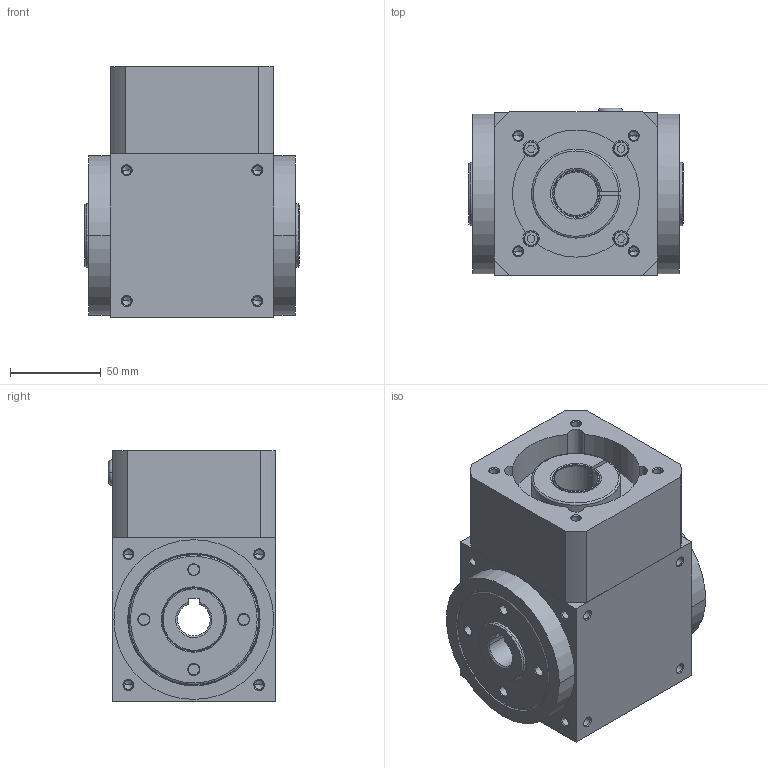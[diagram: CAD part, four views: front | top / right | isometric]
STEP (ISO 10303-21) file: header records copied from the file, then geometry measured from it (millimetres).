
FILE_DESCRIPTION (( 'STEP AP203' ), '1' );
FILE_NAME ('LAT90-H-P2-7090M6.STEP', '2024-11-15T08:56:39', ( '微软用户' ), ( '微软中国' ), 'SwSTEP 2.0', 'SolidWorks 2022', '' );
FILE_SCHEMA (( 'CONFIG_CONTROL_DESIGN' ));
Length unit declared in the file: millimetre
Products named in the file (1): LAT90-H-P2-7090M6
Bounding box: 118 x 92 x 138 mm (x, y, z)
Volume: 1133623.4 mm3; surface area: 163452.6 mm2
Topology: 7 solids, 7 shells, 395 faces, 979 edges, 569 vertices
Faces by surface type: cylinder 168, cone 131, plane 80, torus 16
Entity records: 11449 total; most frequent: CARTESIAN_POINT 2288, DIRECTION 1982, ORIENTED_EDGE 1862, EDGE_CURVE 931, AXIS2_PLACEMENT_3D 779, VERTEX_POINT 569, EDGE_LOOP 456, VECTOR 424
